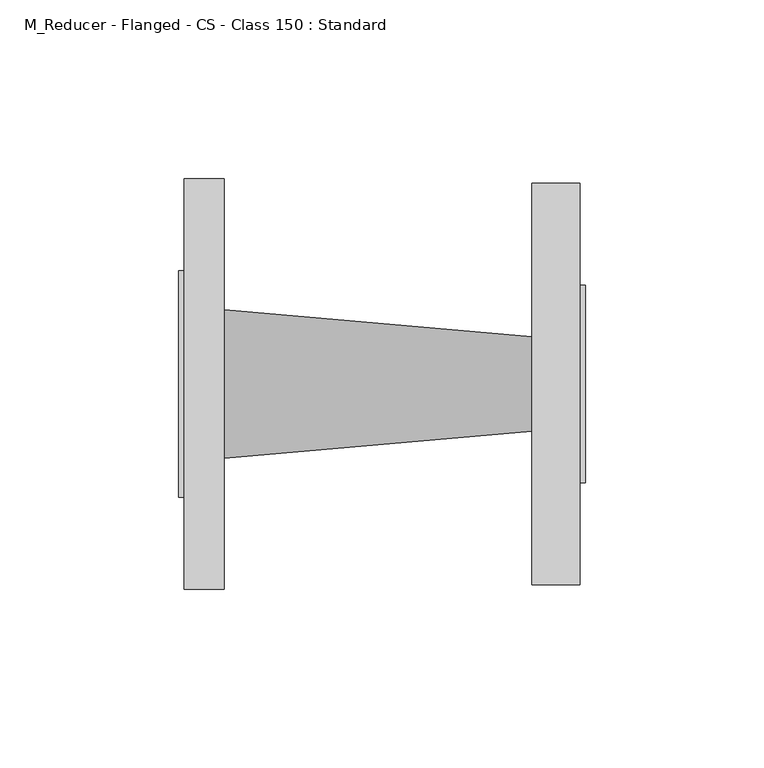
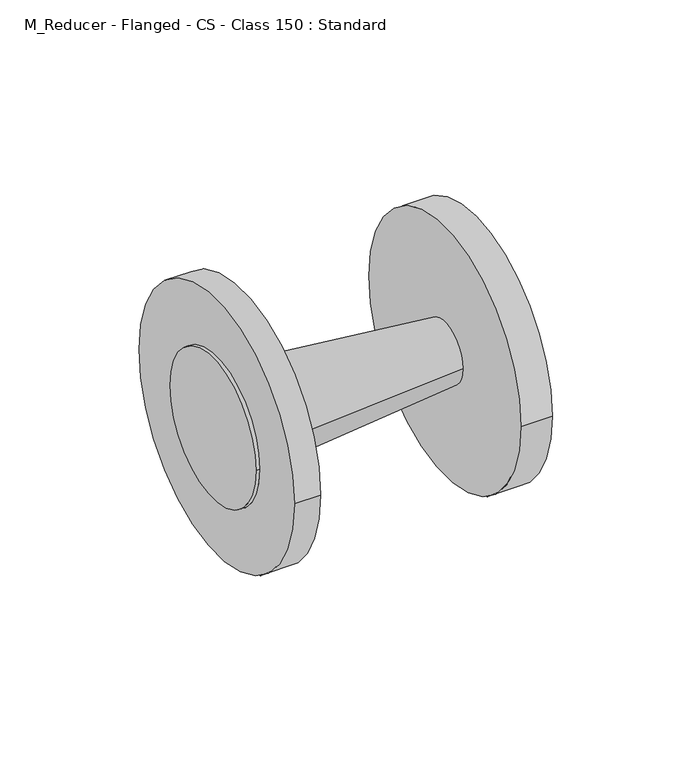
"""IFC4 building model written with IfcOpenShell, lengths in millimetres: pipe fitting geometry, M_Reducer - Flanged - CS - Class 150 : Standard."""

import ifcopenshell
import ifcopenshell.guid

model = None  # the IFC model being written
_history = None  # IfcOwnerHistory: only IFC2X3 demands one
_inside = {}  # id of a spatial element -> (the spatial element, [elements in it])
_under = {}  # id of a project, library or spatial element -> (it, [spatial elements below it])
_declared = {}  # id of a project -> (the project, [libraries it declares])
_typed = {}  # id of a type object -> (the type object, [elements of that type])
_made_of = {}  # id of a material, layer set ... -> (it, [elements and type objects made of it])


def new_model(schema):
    """Start an empty IFC model of exactly this schema.

    Asked for "IFC4X3", IfcOpenShell would pick the latest addendum, in which some entities
    have other attributes; the version numbers below select the first issue.
    IFC2X3 requires an IfcOwnerHistory on every rooted entity: one is made here for all.
    """
    global model, _history
    if schema == "IFC4X3":
        model = ifcopenshell.file(schema_version=(4, 3, 0, 0))
    else:
        model = ifcopenshell.file(schema=schema)
    _inside.clear()
    _under.clear()
    _declared.clear()
    _typed.clear()
    _made_of.clear()
    _history = None
    if model.schema == "IFC2X3":
        org = make("IfcOrganization", Name="unknown")
        user = make(
            "IfcPersonAndOrganization",
            ThePerson=make("IfcPerson", FamilyName="unknown"),
            TheOrganization=org,
        )
        app = make(
            "IfcApplication",
            ApplicationDeveloper=org,
            Version="unknown",
            ApplicationFullName="unknown",
            ApplicationIdentifier="unknown",
        )
        _history = make(
            "IfcOwnerHistory",
            OwningUser=user,
            OwningApplication=app,
            ChangeAction="ADDED",
            CreationDate=0,
        )
    return model


def make(cls, **values):
    """One entity of the class cls with the attributes given. An attribute that is None is left unset."""
    return model.create_entity(
        cls, **{name: value for name, value in values.items() if value is not None}
    )


def rooted(cls, **values):
    """An entity with a GlobalId (a new one), such as an element, a storey or a relation."""
    return make(cls, GlobalId=ifcopenshell.guid.new(), OwnerHistory=_history, **values)


def si_unit(unit_type, name, prefix=None):
    """IfcSIUnit, for example si_unit("LENGTHUNIT", "METRE", prefix="MILLI")."""
    return make("IfcSIUnit", UnitType=unit_type, Prefix=prefix, Name=name)


def assignment(units):
    """IfcUnitAssignment: the units of a project."""
    return None if units is None else make("IfcUnitAssignment", Units=units)


def point(xyz):
    """IfcCartesianPoint."""
    return None if xyz is None else make("IfcCartesianPoint", Coordinates=xyz)


def direction(xyz):
    """IfcDirection."""
    return None if xyz is None else make("IfcDirection", DirectionRatios=xyz)


def frame(location, z_axis=None, x_axis=None):
    """IfcAxis2Placement3D, a coordinate frame: its origin and axes. An axis left out is left unset."""
    return make(
        "IfcAxis2Placement3D",
        Location=point(location),
        Axis=direction(z_axis),
        RefDirection=direction(x_axis),
    )


def origin():
    """The frame at (0, 0, 0) with its axes left unset."""
    return frame((0.0, 0.0, 0.0))


def place(relative_to, where):
    """IfcLocalPlacement: puts the frame where relative to a parent placement (None: the world)."""
    return make(
        "IfcLocalPlacement", PlacementRelTo=relative_to, RelativePlacement=where
    )


def context(
    kind, dimensions, precision=None, world=None, true_north=None, identifier=None
):
    """IfcGeometricRepresentationContext, for example the 3D "Model" context."""
    return make(
        "IfcGeometricRepresentationContext",
        ContextIdentifier=identifier,
        ContextType=kind,
        CoordinateSpaceDimension=dimensions,
        Precision=precision,
        WorldCoordinateSystem=world,
        TrueNorth=true_north,
    )


def project(units=None, contexts=None):
    """IfcProject with its units and contexts."""
    return rooted(
        "IfcProject",
        Name="project",
        RepresentationContexts=contexts,
        UnitsInContext=assignment(units),
    )


def spatial(cls, under=None, at=None, **own):
    """A site, building, storey or space (cls), placed at a placement, below another one or the project."""
    s = rooted(cls, ObjectPlacement=at, **own)
    if under is not None:
        _under.setdefault(under.id(), (under, []))[1].append(s)
    return s


def polyline(points):
    """IfcPolyline through the points."""
    return make("IfcPolyline", Points=[point(p) for p in points])


def circle_curve(where, radius):
    """IfcCircle in the frame where."""
    return make("IfcCircle", Position=where, Radius=radius)


def shape(context_of_items, identifier, shape_type, items):
    """IfcShapeRepresentation: the items that make up one representation, for example the "Body"."""
    return make(
        "IfcShapeRepresentation",
        ContextOfItems=context_of_items,
        RepresentationIdentifier=identifier,
        RepresentationType=shape_type,
        Items=items,
    )


def source(mapping_origin, context_of_items, identifier, shape_type, items):
    """IfcRepresentationMap: a shape defined once, which mapped items show again and again."""
    return make(
        "IfcRepresentationMap",
        MappingOrigin=mapping_origin,
        MappedRepresentation=shape(context_of_items, identifier, shape_type, items),
    )


def transform(
    local_origin,
    x_axis=None,
    y_axis=None,
    z_axis=None,
    scale=None,
    scale2=None,
    scale3=None,
    uniform=True,
):
    """IfcCartesianTransformationOperator3D, or its non-uniform kind. x_axis, y_axis, z_axis: its Axis1, 2, 3."""
    if uniform:
        return make(
            "IfcCartesianTransformationOperator3D",
            Axis1=direction(x_axis),
            Axis2=direction(y_axis),
            LocalOrigin=point(local_origin),
            Scale=scale,
            Axis3=direction(z_axis),
        )
    return make(
        "IfcCartesianTransformationOperator3DnonUniform",
        Axis1=direction(x_axis),
        Axis2=direction(y_axis),
        LocalOrigin=point(local_origin),
        Scale=scale,
        Axis3=direction(z_axis),
        Scale2=scale2,
        Scale3=scale3,
    )


def mapped(mapping_source, mapping_target):
    """IfcMappedItem: shows the shape of a source again, moved by a transform."""
    return make(
        "IfcMappedItem", MappingSource=mapping_source, MappingTarget=mapping_target
    )


def made_of(thing, what):
    """Note that an element or type object is made of a material, layer set ...; save() writes the relation."""
    if what is not None:
        _made_of.setdefault(what.id(), (what, []))[1].append(thing)
    return thing


def element(
    cls,
    number,
    at=None,
    inside=None,
    cuts=None,
    type_object=None,
    material=None,
    context=None,
    identifier="Body",
    shape_type=None,
    held_by="IfcProductDefinitionShape",
    body=None,
    shapes=None,
    **own,
):
    """One element of the class cls, such as IfcWall. Its Tag is "e" and its number.

    at: its placement. inside: the storey or other place that contains it. cuts: it is an
    opening in that element (IfcRelVoidsElement). A single representation is given by context,
    identifier, shape_type and body (its items); several are given by shapes. held_by: the class
    of the entity that holds the representations. save() writes the other relations.
    """
    e = rooted(cls, Tag="e%d" % number, ObjectPlacement=at, **own)
    if body is not None:
        shapes = [shape(context, identifier, shape_type, body)]
    if shapes is not None:
        e.Representation = make(held_by, Representations=shapes)
    if inside is not None:
        _inside.setdefault(inside.id(), (inside, []))[1].append(e)
    if cuts is not None:
        rooted(
            "IfcRelVoidsElement", RelatingBuildingElement=cuts, RelatedOpeningElement=e
        )
    if type_object is not None:
        _typed.setdefault(type_object.id(), (type_object, []))[1].append(e)
    return made_of(e, material)


def aggregate(whole, parts):
    """IfcRelAggregates: a whole, such as a stair, and the parts it consists of."""
    return rooted("IfcRelAggregates", RelatingObject=whole, RelatedObjects=parts)


def save(model, path):
    """Write the relations noted so far, then the file.

    IfcRelAggregates (storeys below a building ...), IfcRelContainedInSpatialStructure (elements
    in a storey), IfcRelDefinesByType, IfcRelAssociatesMaterial and IfcRelDeclares: one each for
    every whole, place, type object, material and project.
    """
    for whole, parts in _under.values():
        aggregate(whole, parts)
    for where, things in _inside.values():
        rooted(
            "IfcRelContainedInSpatialStructure",
            RelatedElements=things,
            RelatingStructure=where,
        )
    for kind, things in _typed.values():
        rooted("IfcRelDefinesByType", RelatedObjects=things, RelatingType=kind)
    for what, things in _made_of.values():
        rooted("IfcRelAssociatesMaterial", RelatedObjects=things, RelatingMaterial=what)
    for by, libraries in _declared.values():
        rooted("IfcRelDeclares", RelatingContext=by, RelatedDefinitions=libraries)
    model.write(path)


def plane_surface(at):
    """IfcPlane: the flat surface through the origin of the frame at, square to its z axis."""
    return make("IfcPlane", Position=at)


def cylinder_surface(at, radius):
    """IfcCylindricalSurface: all points at the distance radius from the z axis of the frame at."""
    return make("IfcCylindricalSurface", Position=at, Radius=radius)


def revolved_surface(curve, axis_point, axis_direction):
    """IfcSurfaceOfRevolution: the curve turned about the line through axis_point along axis_direction."""
    return make(
        "IfcSurfaceOfRevolution",
        SweptCurve=make("IfcArbitraryOpenProfileDef", ProfileType="CURVE", Curve=curve),
        AxisPosition=make("IfcAxis1Placement", Location=point(axis_point), Axis=direction(axis_direction)),
    )


def advanced_brep(points, edges, surfaces, faces):
    """IfcAdvancedBrep: a solid bounded by faces that lie on surfaces and meet in shared edges.

    An edge is (start, end): straight between two places in points (the first is 0);
    or (start, end, curve); or (start, end, curve, False) where it runs against its curve.
    A face is (place in surfaces, loops), or (place, loops, False) where it looks against
    its surface's normal. A loop lists edges by number (the first is 1), with a minus sign
    where the edge is run from its end to its start. The first loop is the outer one.
    """
    corners = [point(p) for p in points]
    vertices = [make("IfcVertexPoint", VertexGeometry=c) for c in corners]
    made = []
    for start, end, *more in edges:
        made.append(
            make(
                "IfcEdgeCurve",
                EdgeStart=vertices[start],
                EdgeEnd=vertices[end],
                EdgeGeometry=more[0] if more else make("IfcPolyline", Points=[corners[start], corners[end]]),
                SameSense=more[1] if len(more) > 1 else True,
            )
        )
    hull = []
    for where, loops, *sense in faces:
        bounds = []
        for j, loop in enumerate(loops):
            ring = [make("IfcOrientedEdge", EdgeElement=made[abs(k) - 1], Orientation=k > 0) for k in loop]
            bounds.append(
                make(
                    "IfcFaceOuterBound" if j == 0 else "IfcFaceBound",
                    Bound=make("IfcEdgeLoop", EdgeList=ring),
                    Orientation=True,
                )
            )
        hull.append(make("IfcAdvancedFace", Bounds=bounds, FaceSurface=surfaces[where], SameSense=sense[0] if sense else True))
    return make("IfcAdvancedBrep", Outer=make("IfcClosedShell", CfsFaces=hull))


def m_reducer_flanged_cs_class_150_standard_cc2a7c1d(model_context):
    return source(origin(), model_context, "Body", "AdvancedBrep", [
        advanced_brep(
        [(12.7875, 57.5, 0.0), (12.7875, -57.5, 0.0), (12.7875, -20.8, 0.0), (12.7875, 20.8, 0.0), (1.5875, 57.5, 0.0), (1.5875, -57.5, 0.0), (1.5875, 31.75, 0.0), (1.5875, -31.75, 0.0), (99.0109375, 13.2558594, 0.0), (99.0109375, -13.2558594, 0.0), (112.4125, 56.1554688, 0.0), (112.4125, -56.1554687, 0.0), (112.4125, -27.5976562, 0.0), (112.4125, 27.5976563, 0.0), (99.0109375, 56.1554688, 0.0), (99.0109375, -56.1554687, 0.0), (0.0, 31.75, 0.0), (0.0, -31.75, 0.0), (114.0, 27.5976563, 0.0), (114.0, -27.5976562, 0.0)],
        [
            (0, 1, circle_curve(frame((12.7875, 0.0, 0.0), z_axis=(1.0, 0.0, 0.0), x_axis=(0.0, -1.0, 0.0)), 57.5)),
            (1, 0, circle_curve(frame((12.7875, 0.0, 0.0), z_axis=(1.0, 0.0, 0.0), x_axis=(0.0, -1.0, 0.0)), 57.5)),
            (2, 3, circle_curve(frame((12.7875, 0.0, 0.0), z_axis=(-1.0, 0.0, 0.0), x_axis=(0.0, -1.0, 0.0)), 20.8)),
            (3, 2, circle_curve(frame((12.7875, 0.0, 0.0), z_axis=(-1.0, 0.0, 0.0), x_axis=(0.0, 1.0, 0.0)), 20.8)),
            (4, 5, circle_curve(frame((1.5875, 0.0, 0.0), z_axis=(-1.0, 0.0, 0.0), x_axis=(0.0, -1.0, 0.0)), 57.5)),
            (5, 4, circle_curve(frame((1.5875, 0.0, 0.0), z_axis=(-1.0, 0.0, 0.0), x_axis=(0.0, -1.0, 0.0)), 57.5)),
            (6, 7, circle_curve(frame((1.5875, 0.0, 0.0), z_axis=(1.0, 0.0, 0.0), x_axis=(0.0, -1.0, 0.0)), 31.75)),
            (7, 6, circle_curve(frame((1.5875, 0.0, 0.0), z_axis=(1.0, 0.0, 0.0), x_axis=(0.0, -1.0, 0.0)), 31.75)),
            (1, 5),
            (4, 0),
            (3, 8),
            (8, 9, circle_curve(frame((99.0109375, 0.0, 0.0), z_axis=(-1.0, 0.0, 0.0), x_axis=(0.0, 1.0, 0.0)), 13.2558594)),
            (9, 2),
            (9, 8, circle_curve(frame((99.0109375, 0.0, 0.0), z_axis=(-1.0, 0.0, 0.0), x_axis=(0.0, -1.0, 0.0)), 13.2558594)),
            (10, 11, circle_curve(frame((112.4125, 0.0, 0.0), z_axis=(1.0, 0.0, 0.0), x_axis=(0.0, -1.0, 0.0)), 56.1554687)),
            (11, 10, circle_curve(frame((112.4125, 0.0, 0.0), z_axis=(1.0, 0.0, 0.0), x_axis=(0.0, -1.0, 0.0)), 56.1554687)),
            (12, 13, circle_curve(frame((112.4125, 0.0, 0.0), z_axis=(-1.0, 0.0, 0.0), x_axis=(0.0, -1.0, 0.0)), 27.5976563)),
            (13, 12, circle_curve(frame((112.4125, 0.0, 0.0), z_axis=(-1.0, 0.0, 0.0), x_axis=(0.0, -1.0, 0.0)), 27.5976563)),
            (14, 15, circle_curve(frame((99.0109375, 0.0, 0.0), z_axis=(-1.0, 0.0, 0.0), x_axis=(0.0, -1.0, 0.0)), 56.1554687)),
            (15, 14, circle_curve(frame((99.0109375, 0.0, 0.0), z_axis=(-1.0, 0.0, 0.0), x_axis=(0.0, -1.0, 0.0)), 56.1554687)),
            (11, 15),
            (14, 10),
            (16, 17, circle_curve(frame((0.0, 0.0, 0.0), z_axis=(-1.0, 0.0, 0.0), x_axis=(0.0, -1.0, 0.0)), 31.75)),
            (17, 16, circle_curve(frame((0.0, 0.0, 0.0), z_axis=(-1.0, 0.0, 0.0), x_axis=(0.0, -1.0, 0.0)), 31.75)),
            (16, 6),
            (7, 17),
            (18, 19, circle_curve(frame((114.0, 0.0, 0.0), z_axis=(1.0, 0.0, 0.0), x_axis=(0.0, -1.0, 0.0)), 27.5976563)),
            (19, 18, circle_curve(frame((114.0, 0.0, 0.0), z_axis=(1.0, 0.0, 0.0), x_axis=(0.0, -1.0, 0.0)), 27.5976563)),
            (19, 12),
            (13, 18),
        ],
        [
            plane_surface(frame((12.7875, -57.5, 0.0), z_axis=(1.0, 0.0, 0.0), x_axis=(0.0, 0.0, 1.0))),
            plane_surface(frame((1.5875, -57.5, 0.0), z_axis=(-1.0, 0.0, 0.0), x_axis=(0.0, 0.0, -1.0))),
            cylinder_surface(frame((1.5875, 0.0, 0.0), z_axis=(1.0, 0.0, 0.0), x_axis=(0.0, -1.0, 0.0)), 57.5),
            revolved_surface(polyline([(99.01093749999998, -13.255859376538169, 0.0), (12.787499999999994, -20.8, 0.0)]), (250.5147097, 0.0, 0.0), (-1.0, 0.0, 0.0)),
            revolved_surface(polyline([(99.01093749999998, 13.255859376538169, 0.0), (12.787499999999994, 20.8, 0.0)]), (250.5147097, 0.0, 0.0), (-1.0, 0.0, 0.0)),
            plane_surface(frame((112.4125, -56.1554687, 0.0), z_axis=(1.0, 0.0, 0.0), x_axis=(0.0, 0.0, 1.0))),
            plane_surface(frame((99.0109375, -56.1554687, 0.0), z_axis=(-1.0, 0.0, 0.0), x_axis=(0.0, 0.0, -1.0))),
            cylinder_surface(frame((99.0109375, 0.0, 0.0), z_axis=(1.0, 0.0, 0.0), x_axis=(0.0, -1.0, 0.0)), 56.1554687),
            plane_surface(frame((0.0, -31.75, 0.0), z_axis=(-1.0, 0.0, 0.0), x_axis=(0.0, 0.0, -1.0))),
            cylinder_surface(frame((0.0, 0.0, 0.0), z_axis=(1.0, 0.0, 0.0), x_axis=(0.0, -1.0, 0.0)), 31.75),
            plane_surface(frame((114.0, -27.5976562, 0.0), z_axis=(1.0, 0.0, 0.0), x_axis=(0.0, 0.0, 1.0))),
            cylinder_surface(frame((112.4125, 0.0, 0.0), z_axis=(1.0, 0.0, 0.0), x_axis=(0.0, -1.0, 0.0)), 27.5976563),
        ],
        [
            (0, [[1, 2], [3, 4]]),
            (1, [[5, 6], [7, 8]]),
            (2, [[9, -5, 10, -2]]),
            (2, [[-10, -6, -9, -1]]),
            (3, [[-4, 11, 12, 13]]),
            (4, [[14, -11, -3, -13]]),
            (5, [[15, 16], [17, 18]]),
            (6, [[19, 20], [-14, -12]]),
            (7, [[21, -19, 22, -16]]),
            (7, [[-22, -20, -21, -15]]),
            (8, [[23, 24]]),
            (9, [[25, -8, 26, -23]]),
            (9, [[-26, -7, -25, -24]]),
            (10, [[27, 28]]),
            (11, [[29, -18, 30, -28]]),
            (11, [[-30, -17, -29, -27]]),
        ],
    ),
    ])


if __name__ == "__main__":
    model = new_model("IFC4")
    model_context = context("Model", 3, world=origin())
    ifc_project = project(units=[si_unit("LENGTHUNIT", "METRE", prefix="MILLI")], contexts=[model_context])
    site = spatial("IfcSite", under=ifc_project)
    building = spatial("IfcBuilding", under=site)
    placement = place(None, origin())
    m_reducer_flanged_cs_class_150_standard_shape = m_reducer_flanged_cs_class_150_standard_cc2a7c1d(model_context)
    element("IfcPipeFitting", 1, ObjectType="M_Reducer - Flanged - CS - Class 150 : Standard", at=placement, inside=building, context=model_context, shape_type="MappedRepresentation", body=[
        mapped(m_reducer_flanged_cs_class_150_standard_shape, transform((0.0, 0.0, 0.0), x_axis=(1.0, 0.0, 0.0), y_axis=(0.0, 1.0, 0.0), z_axis=(0.0, 0.0, 1.0))),
    ])
    save(model, "model.ifc")
